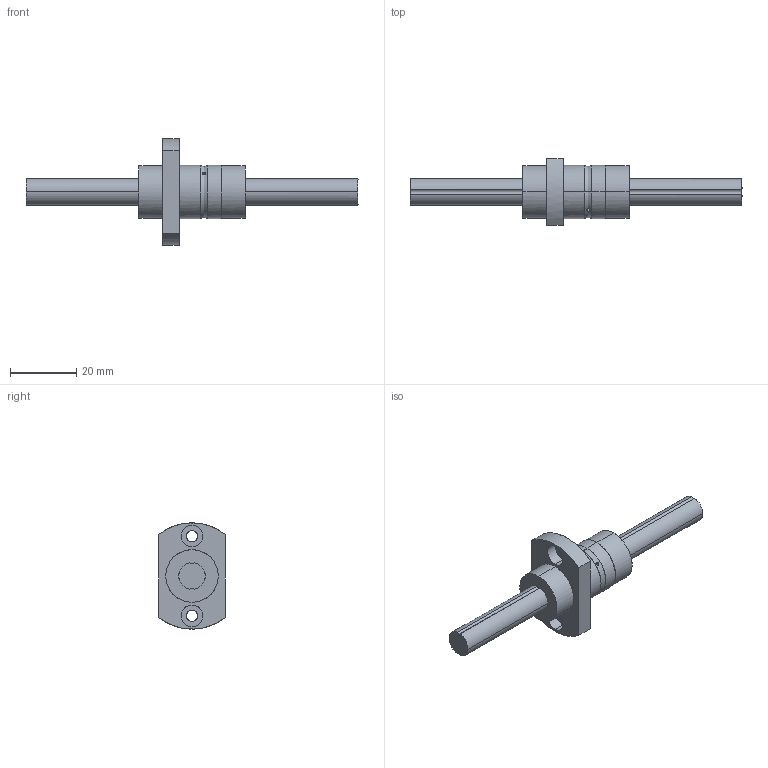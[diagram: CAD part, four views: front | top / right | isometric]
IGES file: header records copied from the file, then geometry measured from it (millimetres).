
Global section: file name: No Iges File Name specified; native system: AutoDesk Inventor R11.0; preprocessor: AutoDesk Inventor Iges Exporter R11.0; author: No Author specified; organization: No Organization specified; date: 20150223.133515; units: millimetre
Bounding box: 100 x 20 x 31.98 mm (x, y, z)
Surface area: 6525.3 mm2 (no closed solid volume)
Topology: 0 solids, 0 shells, 47 faces, 310 edges, 310 vertices
Faces by surface type: bspline 47
